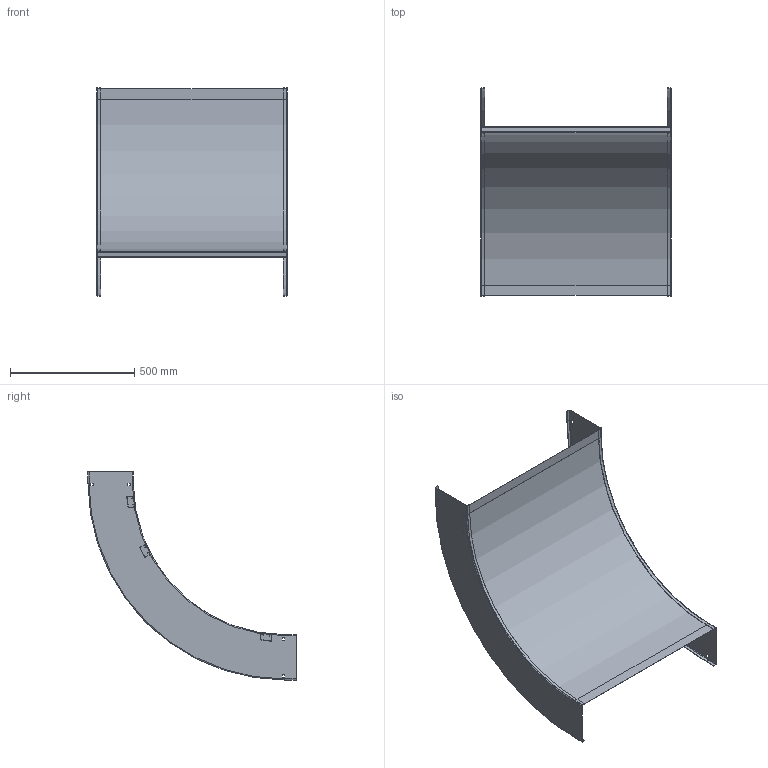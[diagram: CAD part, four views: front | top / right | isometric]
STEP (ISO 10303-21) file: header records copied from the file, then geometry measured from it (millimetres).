
FILE_DESCRIPTION((''),'2;1');
FILE_NAME('AUF730SVO9024_ASM','2010-02-02T',('erouzier'),(''),'PRO/ENGINEER BY PARAMETRIC TECHNOLOGY CORPORATION, 2008510','PRO/ENGINEER BY PARAMETRIC TECHNOLOGY CORPORATION, 2008510','');
FILE_SCHEMA(('CONFIG_CONTROL_DESIGN'));
Length unit declared in the file: inch
Products named in the file (5): CDS001419_7_90_24; CDS002159L30; CDS002159L24-P; CDS003665_90_24_30; AUF730SVO9024_ASM
Assembly tree (8 placements, depth 2):
  AUF730SVO9024_ASM
    CDS001419_7_90_24  x2
    CDS002159L30  x3
    CDS002159L24-P  x2
    CDS003665_90_24_30
Bounding box: 766.11 x 836.47 x 836.47 mm (x, y, z)
Volume: 2294318.2 mm3; surface area: 3395181 mm2
Topology: 8 solids, 8 shells, 632 faces, 1776 edges, 1160 vertices
Faces by surface type: plane 367, cylinder 257, torus 8
Entity records: 10151 total; most frequent: DIRECTION 1754, CARTESIAN_POINT 1741, ORIENTED_EDGE 1720, EDGE_CURVE 860, VECTOR 608, LINE 608, AXIS2_PLACEMENT_3D 573, VERTEX_POINT 560
